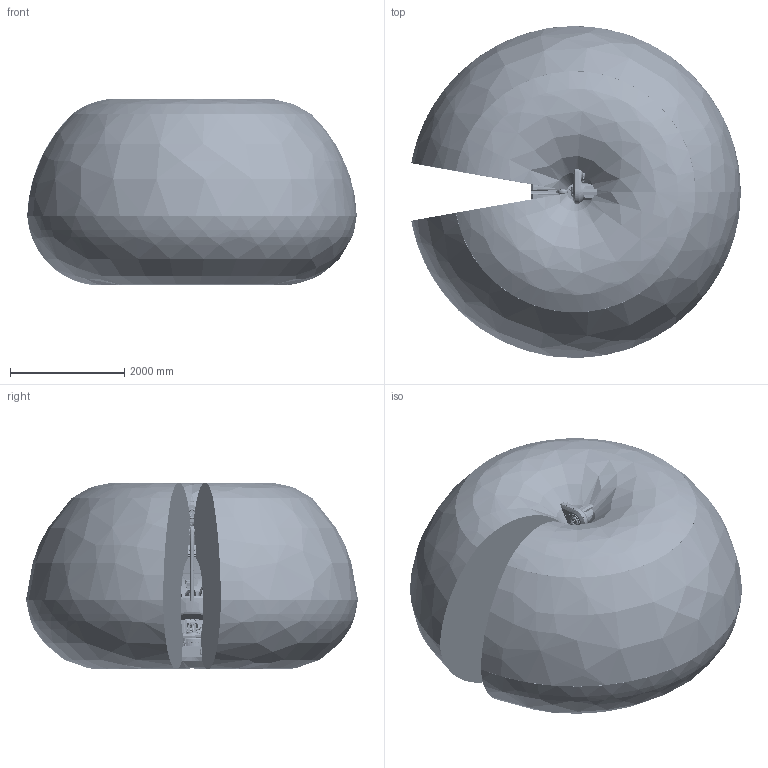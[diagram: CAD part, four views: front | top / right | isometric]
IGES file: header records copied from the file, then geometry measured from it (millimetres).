
Start section: SolidWorks IGES file using analytic representation for surfaces
Global section: file name: B:\DM\Robotics\SEROP_PROJ\Product Development\DevelopmentProjects\Manipulator_Modularity\04. Product Design\06. CAD\Amanda\7720 Simulation models\IRB7720_620kg-290_OC_00_SW_J\IRB7720_620kg-290_OC_00_ASM_CAD.IGS; native system: SolidWorks 2022; preprocessor: SolidWorks 2022; author: SEAMSTO1; date: 240219.220100; units: millimetre
Bounding box: 5761.94 x 5805.18 x 3264.86 mm (x, y, z)
Surface area: 123895605.8 mm2 (no closed solid volume)
Topology: 0 solids, 0 shells, 8540 faces, 149845 edges, 149686 vertices
Faces by surface type: bspline 4627, revolution 3913
